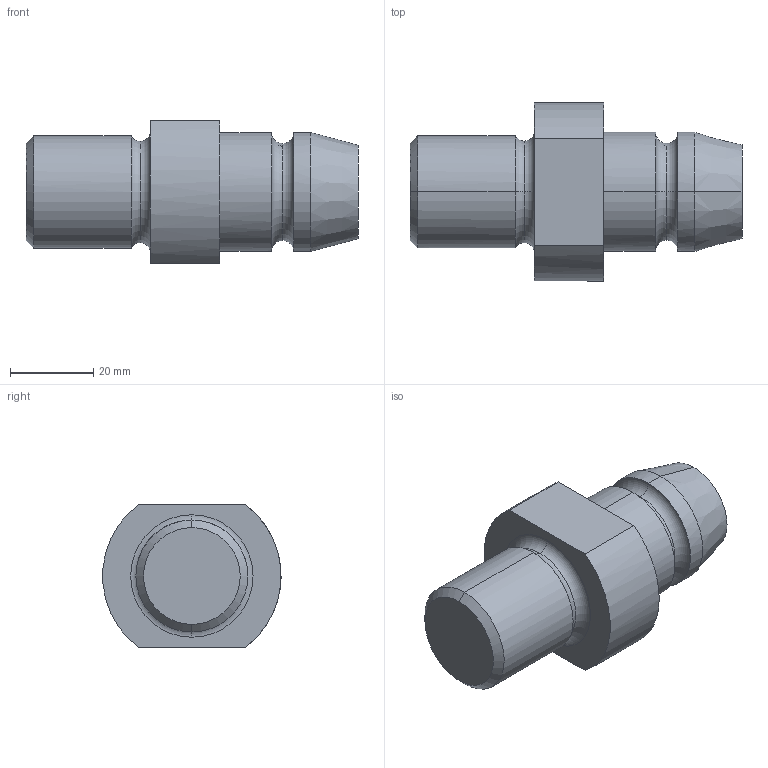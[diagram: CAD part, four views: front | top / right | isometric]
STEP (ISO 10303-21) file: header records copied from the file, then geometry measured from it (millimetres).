
FILE_DESCRIPTION(('CATIA V5 STEP Exchange'),'2;1');
FILE_NAME('C:\Users\Utente\Desktop\IO LAVORO\3D X SITO CF\X SITO\PLASTICA\AGS\AGS3421M27.stp','2021-02-21T19:43:39+00:00',('none'),('none'),'CATIA Version 5 Release 20 GA (IN-10)','CATIA V5 STEP AP203','none');
FILE_SCHEMA(('CONFIG_CONTROL_DESIGN'));
Length unit declared in the file: millimetre
Products named in the file (1): AGS3421M27
Bounding box: 80 x 42.92 x 34.4 mm (x, y, z)
Volume: 57569.4 mm3; surface area: 10133 mm2
Topology: 1 solids, 1 shells, 26 faces, 70 edges, 48 vertices
Faces by surface type: cylinder 8, torus 8, plane 6, cone 4
Entity records: 926 total; most frequent: CARTESIAN_POINT 245, ORIENTED_EDGE 140, DIRECTION 111, EDGE_CURVE 70, AXIS2_PLACEMENT_3D 68, VERTEX_POINT 48, CIRCLE 41, EDGE_LOOP 28
